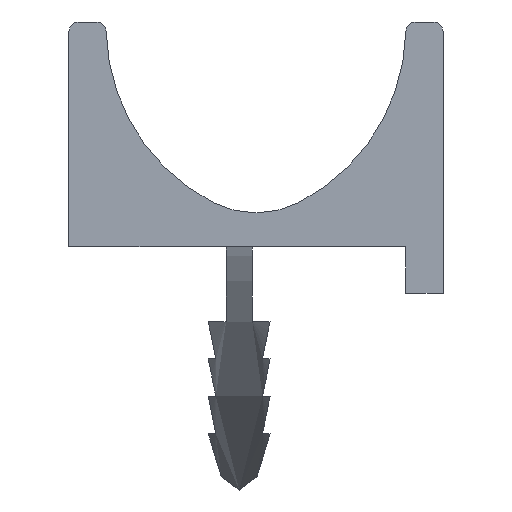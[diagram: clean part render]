
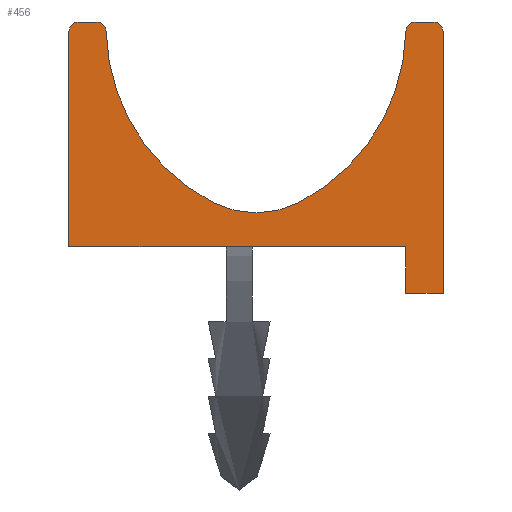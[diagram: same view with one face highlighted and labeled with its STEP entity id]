
A CAD part, left-side view. The second image highlights one B-rep face of the part: STEP entity #456.
In plain terms, the highlighted planar face has unit normal (-1, 0, 0).
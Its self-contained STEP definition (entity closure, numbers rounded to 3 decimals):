
#236 = EDGE_CURVE( '', #240, #398, #676, .T. );
#240 = VERTEX_POINT( '', #680 );
#276 = EDGE_CURVE( '', #330, #292, #719, .T. );
#284 = VERTEX_POINT( '', #728 );
#292 = VERTEX_POINT( '', #737 );
#330 = VERTEX_POINT( '', #779 );
#350 = VERTEX_POINT( '', #801 );
#354 = EDGE_CURVE( '', #350, #426, #805, .T. );
#398 = VERTEX_POINT( '', #852 );
#422 = VERTEX_POINT( '', #878 );
#424 = EDGE_CURVE( '', #446, #648, #880, .T. );
#426 = VERTEX_POINT( '', #882 );
#430 = EDGE_CURVE( '', #556, #330, #886, .T. );
#446 = VERTEX_POINT( '', #904 );
#448 = EDGE_CURVE( '', #292, #240, #906, .T. );
#456 = ADVANCED_FACE( '', ( #914 ), #915, .F. );
#470 = EDGE_CURVE( '', #426, #526, #933, .T. );
#526 = VERTEX_POINT( '', #994 );
#530 = EDGE_CURVE( '', #526, #556, #998, .T. );
#532 = VERTEX_POINT( '', #1000 );
#556 = VERTEX_POINT( '', #1026 );
#564 = EDGE_CURVE( '', #568, #350, #1034, .T. );
#568 = VERTEX_POINT( '', #1038 );
#590 = EDGE_CURVE( '', #284, #446, #1063, .T. );
#636 = EDGE_CURVE( '', #648, #422, #1114, .T. );
#638 = EDGE_CURVE( '', #532, #284, #1116, .T. );
#640 = EDGE_CURVE( '', #398, #532, #1118, .T. );
#642 = EDGE_CURVE( '', #422, #568, #1120, .T. );
#648 = VERTEX_POINT( '', #1126 );
#676 = LINE( '', #1145, #1146 );
#680 = CARTESIAN_POINT( '', ( -1750., -9.402, 12. ) );
#719 = CIRCLE( '', #1204, 10.52 );
#728 = CARTESIAN_POINT( '', ( -1750., -10.9, -2.5 ) );
#737 = CARTESIAN_POINT( '', ( -1750., -8.902, 11.51 ) );
#779 = CARTESIAN_POINT( '', ( -1750., -3.179, 2.351 ) );
#801 = CARTESIAN_POINT( '', ( -1750., 8.6, 12. ) );
#805 = LINE( '', #1320, #1321 );
#852 = CARTESIAN_POINT( '', ( -1750., -10.4, 12. ) );
#878 = CARTESIAN_POINT( '', ( -1750., 9.1, 0. ) );
#880 = LINE( '', #1421, #1422 );
#882 = CARTESIAN_POINT( '', ( -1750., 7.602, 12. ) );
#886 = CIRCLE( '', #1431, 5. );
#904 = CARTESIAN_POINT( '', ( -1750., -8.9, -2.5 ) );
#906 = CIRCLE( '', #1456, 0.5 );
#914 = FACE_OUTER_BOUND( '', #1469, .T. );
#915 = PLANE( '', #1470 );
#933 = CIRCLE( '', #1493, 0.5 );
#994 = CARTESIAN_POINT( '', ( -1750., 7.102, 11.51 ) );
#998 = CIRCLE( '', #1585, 10.52 );
#1000 = CARTESIAN_POINT( '', ( -1750., -10.9, 11.5 ) );
#1026 = CARTESIAN_POINT( '', ( -1750., 1.379, 2.351 ) );
#1034 = CIRCLE( '', #1631, 0.5 );
#1038 = CARTESIAN_POINT( '', ( -1750., 9.1, 11.5 ) );
#1063 = LINE( '', #1680, #1681 );
#1114 = LINE( '', #1787, #1788 );
#1116 = LINE( '', #1791, #1792 );
#1118 = CIRCLE( '', #1795, 0.5 );
#1120 = LINE( '', #1798, #1799 );
#1126 = CARTESIAN_POINT( '', ( -1750., -8.9, 0. ) );
#1145 = CARTESIAN_POINT( '', ( -1750., -9.402, 12. ) );
#1146 = VECTOR( '', #1823, 1. );
#1204 = AXIS2_PLACEMENT_3D( '', #1870, #1871, #1872 );
#1320 = CARTESIAN_POINT( '', ( -1750., 8.6, 12. ) );
#1321 = VECTOR( '', #1981, 1. );
#1421 = CARTESIAN_POINT( '', ( -1750., -8.9, -2.5 ) );
#1422 = VECTOR( '', #2056, 1. );
#1431 = AXIS2_PLACEMENT_3D( '', #2058, #2059, #2060 );
#1456 = AXIS2_PLACEMENT_3D( '', #2081, #2082, #2083 );
#1469 = EDGE_LOOP( '', ( #2090, #2091, #2092, #2093, #2094, #2095, #2096, #2097, #2098, #2099, #2100, #2101, #2102, #2103 ) );
#1470 = AXIS2_PLACEMENT_3D( '', #2104, #2105, #2106 );
#1493 = AXIS2_PLACEMENT_3D( '', #2141, #2142, #2143 );
#1585 = AXIS2_PLACEMENT_3D( '', #2217, #2218, #2219 );
#1631 = AXIS2_PLACEMENT_3D( '', #2253, #2254, #2255 );
#1680 = CARTESIAN_POINT( '', ( -1750., -10.9, -2.5 ) );
#1681 = VECTOR( '', #2286, 1. );
#1787 = CARTESIAN_POINT( '', ( -1750., 0.7, 0. ) );
#1788 = VECTOR( '', #2339, 1. );
#1791 = CARTESIAN_POINT( '', ( -1750., -10.9, 11.5 ) );
#1792 = VECTOR( '', #2340, 1. );
#1795 = AXIS2_PLACEMENT_3D( '', #2341, #2342, #2343 );
#1798 = CARTESIAN_POINT( '', ( -1750., 9.1, 0. ) );
#1799 = VECTOR( '', #2344, 1. );
#1823 = DIRECTION( '', ( 0., -1., 0. ) );
#1870 = CARTESIAN_POINT( '', ( -1750., 1.616, 11.715 ) );
#1871 = DIRECTION( '', ( -1., 0., 0. ) );
#1872 = DIRECTION( '', ( 0., -0.456, -0.89 ) );
#1981 = DIRECTION( '', ( 0., -1., 0. ) );
#2056 = DIRECTION( '', ( 0., 0., 1. ) );
#2058 = CARTESIAN_POINT( '', ( -1750., -0.9, 6.802 ) );
#2059 = DIRECTION( '', ( -1., 0., 0. ) );
#2060 = DIRECTION( '', ( 0., 0.456, -0.89 ) );
#2081 = CARTESIAN_POINT( '', ( -1750., -9.402, 11.5 ) );
#2082 = DIRECTION( '', ( 1., 0., 0. ) );
#2083 = DIRECTION( '', ( 0., 1., 0.019 ) );
#2090 = ORIENTED_EDGE( '', *, *, #636, .F. );
#2091 = ORIENTED_EDGE( '', *, *, #424, .F. );
#2092 = ORIENTED_EDGE( '', *, *, #590, .F. );
#2093 = ORIENTED_EDGE( '', *, *, #638, .F. );
#2094 = ORIENTED_EDGE( '', *, *, #640, .F. );
#2095 = ORIENTED_EDGE( '', *, *, #236, .F. );
#2096 = ORIENTED_EDGE( '', *, *, #448, .F. );
#2097 = ORIENTED_EDGE( '', *, *, #276, .F. );
#2098 = ORIENTED_EDGE( '', *, *, #430, .F. );
#2099 = ORIENTED_EDGE( '', *, *, #530, .F. );
#2100 = ORIENTED_EDGE( '', *, *, #470, .F. );
#2101 = ORIENTED_EDGE( '', *, *, #354, .F. );
#2102 = ORIENTED_EDGE( '', *, *, #564, .F. );
#2103 = ORIENTED_EDGE( '', *, *, #642, .F. );
#2104 = CARTESIAN_POINT( '', ( -1750., 0., 0. ) );
#2105 = DIRECTION( '', ( 1., 0., 0. ) );
#2106 = DIRECTION( '', ( 0., 0., -1. ) );
#2141 = CARTESIAN_POINT( '', ( -1750., 7.602, 11.5 ) );
#2142 = DIRECTION( '', ( 1., 0., 0. ) );
#2143 = DIRECTION( '', ( 0., 0., 1. ) );
#2217 = CARTESIAN_POINT( '', ( -1750., -3.416, 11.715 ) );
#2218 = DIRECTION( '', ( -1., 0., 0. ) );
#2219 = DIRECTION( '', ( 0., 1., -0.019 ) );
#2253 = CARTESIAN_POINT( '', ( -1750., 8.6, 11.5 ) );
#2254 = DIRECTION( '', ( 1., 0., 0. ) );
#2255 = DIRECTION( '', ( 0., 1., 0. ) );
#2286 = DIRECTION( '', ( 0., 1., 0. ) );
#2339 = DIRECTION( '', ( 0., 1., 0. ) );
#2340 = DIRECTION( '', ( 0., 0., -1. ) );
#2341 = CARTESIAN_POINT( '', ( -1750., -10.4, 11.5 ) );
#2342 = DIRECTION( '', ( 1., 0., 0. ) );
#2343 = DIRECTION( '', ( 0., 0., 1. ) );
#2344 = DIRECTION( '', ( 0., 0., 1. ) );
